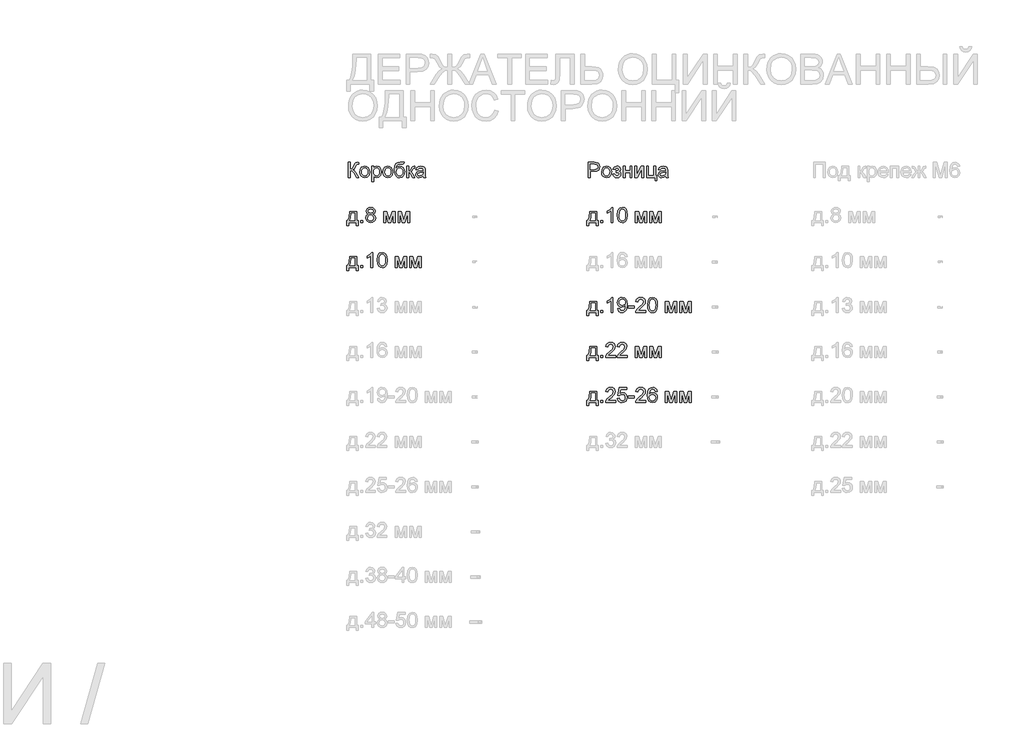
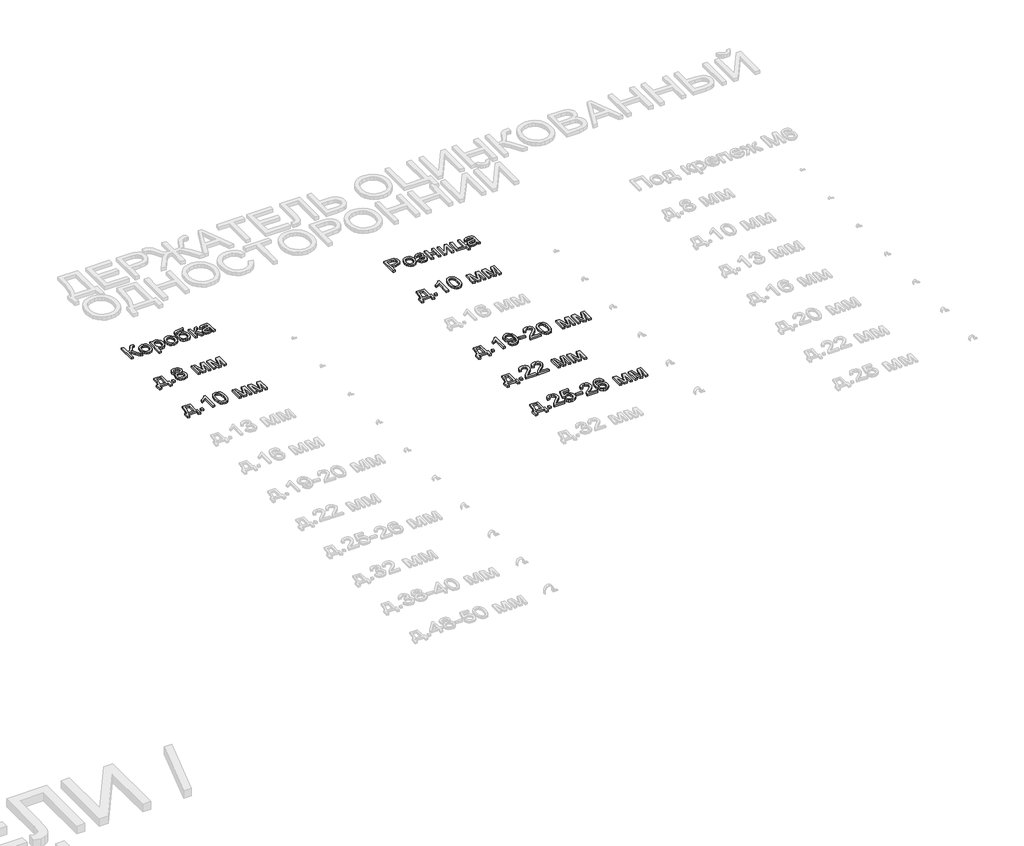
# One storey, part 39 of 98: 8 proxies.
"""IFC4 building model written with IfcOpenShell, lengths in millimetres."""

from ifc_helpers import new_model, si_unit, origin, origin_with_axes, place, context, project, spatial, polyline, outline, extrude, element, save

model = new_model("IFC4")

# Units and contexts
model_context = context("Model", 3, world=origin())
ifc_project = project(units=[si_unit("LENGTHUNIT", "METRE", prefix="MILLI")], contexts=[model_context])

# Site, building, storey
site = spatial("IfcSite", under=ifc_project)
building = spatial("IfcBuilding", under=site)
storey = spatial("IfcBuildingStorey", under=building, Name="Этаж 01", Elevation=0.0)

# Proxies
placement = place(None, origin())
element("IfcBuildingElementProxy", 1, Name="100", ObjectType="100", at=placement, inside=storey, context=model_context, shape_type="SweptSolid", body=[
    extrude(outline(polyline([(-26.9858135, -32485.7395637), (20.1030819, -32485.7395637), (20.1030819, -32546.9551277), (29.520861, -32546.9551277), (29.520861, -32579.9173545), (16.9638222, -32579.9173545), (16.9638222, -32559.5121665), (-34.8339627, -32559.5121665), (-34.8339627, -32579.9173545), (-47.3910015, -32579.9173545), (-47.3910015, -32546.9551277), (-39.5428522, -32546.9551277), (-29.8430303, -32523.0060098), (-26.9858135, -32485.7395637)]), holes=[polyline([(-15.9984045, -32498.2966025), (-18.9414605, -32526.905559), (-25.4161836, -32546.9551277), (7.5460431, -32546.9551277), (7.5460431, -32498.2966025), (-15.9984045, -32498.2966025)])]), origin_with_axes(), (0.0, 0.0, 1.0), 10.0),
    extrude(outline(polyline([(46.7867893, -32559.5121665), (46.7867893, -32546.9551277), (59.3438281, -32546.9551277), (59.3438281, -32559.5121665), (46.7867893, -32559.5121665)])), origin_with_axes(), (0.0, 0.0, 1.0), 10.0),
    extrude(outline(polyline([(98.045014, -32504.1827144), (86.6038839, -32496.3836161), (82.8882758, -32484.2435102), (84.9116267, -32474.4271923), (90.9816796, -32466.3153943), (100.4178528, -32460.8707408), (112.5395646, -32459.0558563), (124.7348527, -32460.9136604), (134.2936532, -32466.4870726), (140.4740707, -32474.7276293), (142.5342099, -32484.5868668), (138.8676527, -32496.4204043), (127.7453537, -32504.1827144), (141.0994701, -32514.0296891), (145.6734696, -32530.2778106), (143.404864, -32542.2830264), (136.5990471, -32552.2035775), (126.0898847, -32558.8622416), (112.7112428, -32561.0817963), (99.3326009, -32558.8530446), (88.8234386, -32552.1667893), (82.0176217, -32542.151202), (79.7490161, -32529.934454), (84.5069565, -32513.3061879), (98.045014, -32504.1827144)]), holes=[polyline([(92.3060548, -32529.4929957), (94.4029822, -32538.9475629), (101.8219358, -32546.02316), (112.8093447, -32548.5247575), (121.3564697, -32547.2095794), (127.7698792, -32543.264045), (133.1164308, -32529.8854031), (127.5982009, -32516.2492438), (121.0376387, -32512.2025419), (112.3924118, -32510.8536412), (103.9648484, -32512.1841478), (97.6158183, -32516.1756674), (92.3060548, -32529.4929957)]), polyline([(95.4453145, -32484.6113922), (99.8966867, -32494.4706297), (112.8583956, -32498.2966025), (125.5625872, -32494.4951552), (129.9771711, -32485.175478), (125.4154344, -32475.524707), (112.7112428, -32471.6128951), (99.9702631, -32475.4388678), (95.4453145, -32484.6113922)])]), origin_with_axes(), (0.0, 0.0, 1.0), 10.0),
    extrude(outline(polyline([(199.0408844, -32485.7395637), (220.6478202, -32485.7395637), (237.3006119, -32544.7968867), (255.2532532, -32485.7395637), (275.9527468, -32485.7395637), (275.9527468, -32559.5121665), (263.3957081, -32559.5121665), (263.3957081, -32500.111487), (245.3449648, -32559.5121665), (228.8638514, -32559.5121665), (211.5979231, -32497.2665329), (211.5979231, -32559.5121665), (199.0408844, -32559.5121665), (199.0408844, -32485.7395637)])), origin_with_axes(), (0.0, 0.0, 1.0), 10.0),
    extrude(outline(polyline([(294.788305, -32485.7395637), (316.3952408, -32485.7395637), (333.0480325, -32544.7968867), (351.0006738, -32485.7395637), (371.7001674, -32485.7395637), (371.7001674, -32559.5121665), (359.1431287, -32559.5121665), (359.1431287, -32500.111487), (341.0923854, -32559.5121665), (324.6112721, -32559.5121665), (307.3453437, -32497.2665329), (307.3453437, -32559.5121665), (294.788305, -32559.5121665), (294.788305, -32485.7395637)])), origin_with_axes(), (0.0, 0.0, 1.0), 10.0),
])
element("IfcBuildingElementProxy", 2, Name="100", ObjectType="100", at=placement, inside=storey, context=model_context, shape_type="SweptSolid", body=[
    extrude(outline(polyline([(-36.4035925, -32159.0558563), (-23.8465538, -32159.0558563), (-23.8465538, -32203.005492), (-9.8057243, -32199.6822913), (-0.0078005, -32182.8700841), (6.9206438, -32168.8292546), (14.768793, -32161.8762849), (25.9891938, -32159.0558563), (34.2297505, -32159.2030091), (34.2297505, -32171.7600479), (31.4583728, -32171.6864715), (28.6869951, -32171.6128951), (18.8768086, -32174.6295274), (11.4210668, -32187.5544482), (2.5305853, -32203.2997976), (-6.1391671, -32208.4991965), (3.5545235, -32214.1768419), (13.113324, -32226.0103794), (34.2297505, -32259.5121665), (19.6616235, -32259.5121665), (1.807084, -32231.2097783), (-10.7622175, -32216.4331848), (-23.8465538, -32212.4232711), (-23.8465538, -32259.5121665), (-36.4035925, -32259.5121665), (-36.4035925, -32159.0558563)])), origin_with_axes(), (0.0, 0.0, 1.0), 10.0),
    extrude(outline(polyline([(40.5082699, -32222.6258651), (43.2244653, -32204.8387706), (51.3730515, -32192.3369141), (61.4407554, -32186.2116789), (73.4950221, -32184.1699338), (86.6866574, -32186.656203), (97.2234108, -32194.1150104), (104.1303953, -32205.957745), (106.4327234, -32221.5957955), (102.361496, -32243.9384953), (90.5034331, -32256.5813732), (73.4950221, -32261.0817963), (60.1439714, -32258.6047242), (49.6194807, -32251.1735079), (42.7860726, -32239.082453), (40.5082699, -32222.6258651)]), holes=[polyline([(53.0653087, -32222.6013396), (54.5184426, -32233.9658276), (58.8778442, -32242.0622972), (65.4384065, -32246.9091424), (73.4950221, -32248.5247575), (81.5148496, -32246.8999454), (88.0631492, -32242.025509), (92.4225508, -32233.8217405), (93.8756847, -32222.2089321), (92.4133537, -32211.175538), (88.026361, -32203.189433), (81.4688644, -32198.3425877), (73.4950221, -32196.7269726), (65.4384065, -32198.3364563), (58.8778442, -32203.1649075), (54.5184426, -32211.242983), (53.0653087, -32222.6013396)])]), origin_with_axes(), (0.0, 0.0, 1.0), 10.0),
    extrude(outline(polyline([(120.5593921, -32287.7655037), (120.5593921, -32185.7395637), (133.1164308, -32185.7395637), (133.1164308, -32198.0513478), (141.7984459, -32187.6402873), (153.5216188, -32184.1699338), (169.4386465, -32189.0259762), (179.8374442, -32202.7111864), (183.3445859, -32222.0617793), (179.3837231, -32242.4056537), (167.8812794, -32256.2625422), (152.0010399, -32261.0817963), (141.0749447, -32257.8566975), (133.1164308, -32249.7019799), (133.1164308, -32287.7655037), (120.5593921, -32287.7655037)]), holes=[polyline([(133.1164308, -32223.2144763), (134.4745285, -32234.4716653), (138.5488216, -32242.34434), (144.5606266, -32246.9796532), (151.7312598, -32248.5247575), (159.018389, -32246.9244709), (165.1834781, -32242.1236108), (169.3865299, -32233.9627619), (170.7875471, -32222.2825085), (169.4202524, -32211.0866332), (165.3183681, -32203.1035939), (159.3157603, -32198.3211279), (152.2462946, -32196.7269726), (145.1492378, -32198.4222955), (138.9167036, -32203.5082641), (134.566499, -32211.8254628), (133.1164308, -32223.2144763)])]), origin_with_axes(), (0.0, 0.0, 1.0), 10.0),
    extrude(outline(polyline([(194.3319948, -32222.6258651), (197.0481902, -32204.8387706), (205.1967764, -32192.3369141), (215.2644804, -32186.2116789), (227.3187471, -32184.1699338), (240.5103823, -32186.656203), (251.0471358, -32194.1150104), (257.9541202, -32205.957745), (260.2564484, -32221.5957955), (256.185221, -32243.9384953), (244.327158, -32256.5813732), (227.3187471, -32261.0817963), (213.9676963, -32258.6047242), (203.4432056, -32251.1735079), (196.6097975, -32239.082453), (194.3319948, -32222.6258651)]), holes=[polyline([(206.8890336, -32222.6013396), (208.3421675, -32233.9658276), (212.7015691, -32242.0622972), (219.2621314, -32246.9091424), (227.3187471, -32248.5247575), (235.3385746, -32246.8999454), (241.8868741, -32242.025509), (246.2462757, -32233.8217405), (247.6994096, -32222.2089321), (246.2370787, -32211.175538), (241.8500859, -32203.189433), (235.2925893, -32198.3425877), (227.3187471, -32196.7269726), (219.2621314, -32198.3364563), (212.7015691, -32203.1649075), (208.3421675, -32211.242983), (206.8890336, -32222.6013396)])]), origin_with_axes(), (0.0, 0.0, 1.0), 10.0),
    extrude(outline(polyline([(326.1809019, -32157.4862265), (337.1683108, -32157.4862265), (333.9309493, -32167.2841503), (327.5298025, -32170.8280802), (312.1523351, -32171.6128951), (291.4405788, -32174.5069001), (283.4943277, -32183.7775264), (280.8087892, -32200.1850634), (291.6858335, -32188.1675849), (305.7021375, -32184.1699338), (318.7680797, -32186.7113853), (329.3692125, -32194.3357396), (336.3957586, -32206.2949702), (338.7379407, -32221.8410502), (334.0903648, -32243.447986), (323.0661677, -32256.4832714), (305.7021375, -32261.0817963), (294.3683064, -32259.6010713), (285.873298, -32255.1588962), (275.0207791, -32240.002158), (271.2438573, -32207.8370089), (273.6258932, -32183.7438039), (280.772001, -32169.0499838), (292.8599902, -32161.5543882), (310.0676705, -32159.0558563), (324.0471863, -32158.7738134), (326.1809019, -32157.4862265)]), holes=[polyline([(326.1809019, -32221.4486427), (324.8197385, -32211.5679454), (320.7362484, -32203.6554169), (314.1756861, -32198.4590837), (305.3833064, -32196.7269726), (296.2169134, -32198.5571855), (289.4172278, -32204.0478243), (285.204979, -32212.598015), (283.8008961, -32223.6068837), (285.3521318, -32234.2785273), (290.005839, -32242.1113481), (296.9342833, -32246.9214052), (305.30973, -32248.5247575), (313.7280964, -32246.6700191), (320.3928918, -32241.105804), (324.7338994, -32232.4820369), (326.1809019, -32221.4486427)])]), origin_with_axes(), (0.0, 0.0, 1.0), 10.0),
    extrude(outline(polyline([(354.4342391, -32185.7395637), (366.9912779, -32185.7395637), (366.9912779, -32217.1321606), (375.4035129, -32214.8758177), (382.2951689, -32201.7301677), (388.0218653, -32190.3871396), (393.0741114, -32186.6960569), (402.2588985, -32185.7395637), (404.6623942, -32185.7395637), (404.6623942, -32198.3701789), (401.2778798, -32198.2966025), (395.1465133, -32199.6209776), (390.8300312, -32207.8860598), (385.7655224, -32216.8255923), (378.6653999, -32221.203388), (386.5871255, -32226.0900872), (394.3616983, -32236.3846517), (407.8016539, -32259.5121665), (393.5278325, -32259.5121665), (380.3576571, -32236.875161), (373.7357811, -32227.2979664), (366.9912779, -32224.9803098), (366.9912779, -32259.5121665), (354.4342391, -32259.5121665), (354.4342391, -32185.7395637)])), origin_with_axes(), (0.0, 0.0, 1.0), 10.0),
    extrude(outline(polyline([(462.7386985, -32250.0943874), (450.5618045, -32258.6047242), (437.1095862, -32261.0817963), (426.6157523, -32259.5918742), (418.874902, -32255.122108), (414.1016331, -32248.3346852), (412.5105434, -32239.8917934), (414.9140391, -32229.9589795), (421.2293467, -32222.7484924), (430.0217264, -32218.6282141), (440.886508, -32216.7397532), (462.6651221, -32212.4232711), (462.7386985, -32209.6273679), (459.2806078, -32200.3567416), (445.3991938, -32196.7269726), (432.6950022, -32199.142731), (426.637212, -32207.7143815), (414.0801733, -32206.1447517), (419.5125641, -32193.8820185), (430.4509221, -32186.6960569), (447.0178746, -32184.1699338), (462.2359264, -32186.4017513), (470.8321024, -32192.0058203), (474.6826006, -32200.5284199), (475.2957373, -32211.5158288), (475.2957373, -32227.1385509), (475.9333994, -32248.9539532), (478.434997, -32259.5121665), (465.8779582, -32259.5121665), (462.7386985, -32250.0943874)]), holes=[polyline([(462.7386985, -32224.9803098), (442.4806633, -32228.8308081), (431.6771954, -32230.8664218), (426.7843648, -32234.1773597), (425.0675822, -32239.0088766), (428.8077158, -32245.8024308), (439.782862, -32248.5247575), (452.4870536, -32245.5203879), (460.6785593, -32238.2485871), (462.6651221, -32228.5365025), (462.7386985, -32224.9803098)])]), origin_with_axes(), (0.0, 0.0, 1.0), 10.0),
])
element("IfcBuildingElementProxy", 3, Name="100", ObjectType="100", at=placement, inside=storey, context=model_context, shape_type="SweptSolid", body=[
    extrude(outline(polyline([(-26.9858135, -32785.7395637), (20.1030819, -32785.7395637), (20.1030819, -32846.9551277), (29.520861, -32846.9551277), (29.520861, -32879.9173545), (16.9638222, -32879.9173545), (16.9638222, -32859.5121665), (-34.8339627, -32859.5121665), (-34.8339627, -32879.9173545), (-47.3910015, -32879.9173545), (-47.3910015, -32846.9551277), (-39.5428522, -32846.9551277), (-29.8430303, -32823.0060098), (-26.9858135, -32785.7395637)]), holes=[polyline([(-15.9984045, -32798.2966025), (-18.9414605, -32826.905559), (-25.4161836, -32846.9551277), (7.5460431, -32846.9551277), (7.5460431, -32798.2966025), (-15.9984045, -32798.2966025)])]), origin_with_axes(), (0.0, 0.0, 1.0), 10.0),
    extrude(outline(polyline([(46.7867893, -32859.5121665), (46.7867893, -32846.9551277), (59.3438281, -32846.9551277), (59.3438281, -32859.5121665), (46.7867893, -32859.5121665)])), origin_with_axes(), (0.0, 0.0, 1.0), 10.0),
    extrude(outline(polyline([(126.8379114, -32859.5121665), (114.2808727, -32859.5121665), (114.2808727, -32781.2268779), (102.3860215, -32789.7004265), (89.1667951, -32796.0402596), (89.1667951, -32784.1699338), (107.5731576, -32772.4222355), (118.7445076, -32759.0558563), (126.8379114, -32759.0558563), (126.8379114, -32859.5121665)])), origin_with_axes(), (0.0, 0.0, 1.0), 10.0),
    extrude(outline(polyline([(156.6608785, -32810.0933518), (160.3519612, -32781.1900897), (171.3148447, -32764.5250353), (189.6231053, -32759.0558563), (204.2893342, -32762.2932179), (214.4183518, -32771.6251578), (220.3044637, -32786.4875904), (222.5853321, -32810.0933518), (218.9310376, -32838.8739865), (208.0049423, -32855.5758291), (199.7735827, -32859.7053045), (189.6231053, -32861.0817963), (176.5755572, -32858.6905633), (166.6672688, -32851.5168644), (159.1624761, -32834.5268476), (156.6608785, -32810.0933518)]), holes=[polyline([(169.2179173, -32810.0688263), (170.6894453, -32829.8210238), (175.1040292, -32841.2529568), (181.6768542, -32846.7068073), (189.6231053, -32848.5247575), (197.5693564, -32846.700676), (204.1421814, -32841.2284313), (208.5567653, -32829.7903669), (210.0282933, -32810.0688263), (208.6058162, -32790.7611529), (204.3383851, -32779.2403151), (197.7778228, -32773.5197501), (189.4759525, -32771.6128951), (181.6155405, -32773.2928895), (175.3002329, -32778.3328729), (170.7384962, -32790.5710806), (169.2179173, -32810.0688263)])]), origin_with_axes(), (0.0, 0.0, 1.0), 10.0),
    extrude(outline(polyline([(275.9527468, -32785.7395637), (297.5596827, -32785.7395637), (314.2124743, -32844.7968867), (332.1651157, -32785.7395637), (352.8646093, -32785.7395637), (352.8646093, -32859.5121665), (340.3075705, -32859.5121665), (340.3075705, -32800.111487), (322.2568273, -32859.5121665), (305.7757139, -32859.5121665), (288.5097856, -32797.2665329), (288.5097856, -32859.5121665), (275.9527468, -32859.5121665), (275.9527468, -32785.7395637)])), origin_with_axes(), (0.0, 0.0, 1.0), 10.0),
    extrude(outline(polyline([(371.7001674, -32785.7395637), (393.3071033, -32785.7395637), (409.9598949, -32844.7968867), (427.9125363, -32785.7395637), (448.6120299, -32785.7395637), (448.6120299, -32859.5121665), (436.0549911, -32859.5121665), (436.0549911, -32800.111487), (418.0042479, -32859.5121665), (401.5231345, -32859.5121665), (384.2572062, -32797.2665329), (384.2572062, -32859.5121665), (371.7001674, -32859.5121665), (371.7001674, -32785.7395637)])), origin_with_axes(), (0.0, 0.0, 1.0), 10.0),
])
element("IfcBuildingElementProxy", 4, Name="100", ObjectType="100", at=placement, inside=storey, context=model_context, shape_type="SweptSolid", body=[
    extrude(outline(polyline([(1563.5964075, -32259.5121665), (1563.5964075, -32159.0558563), (1600.8260654, -32159.0558563), (1615.8356508, -32160.0123495), (1628.0370703, -32164.7089763), (1635.9465332, -32174.421061), (1638.9386401, -32188.1185339), (1636.9183548, -32199.9582028), (1630.8574989, -32209.8235716), (1619.5236678, -32216.4822358), (1601.6844567, -32218.7017905), (1576.1534462, -32218.7017905), (1576.1534462, -32259.5121665), (1563.5964075, -32259.5121665)]), holes=[polyline([(1576.1534462, -32206.1447517), (1602.4202207, -32206.1447517), (1620.9124223, -32201.533964), (1625.0143065, -32195.9850773), (1626.3816013, -32188.5599923), (1623.1565025, -32178.1611946), (1614.6829538, -32172.4712864), (1602.1259151, -32171.6128951), (1576.1534462, -32171.6128951), (1576.1534462, -32206.1447517)])]), origin_with_axes(), (0.0, 0.0, 1.0), 10.0),
    extrude(outline(polyline([(1651.4956788, -32222.6258651), (1654.2118742, -32204.8387706), (1662.3604604, -32192.3369141), (1672.4281644, -32186.2116789), (1684.4824311, -32184.1699338), (1697.6740663, -32186.656203), (1708.2108198, -32194.1150104), (1715.1178042, -32205.957745), (1717.4201324, -32221.5957955), (1713.348905, -32243.9384953), (1701.490842, -32256.5813732), (1684.4824311, -32261.0817963), (1671.1313803, -32258.6047242), (1660.6068896, -32251.1735079), (1653.7734815, -32239.082453), (1651.4956788, -32222.6258651)]), holes=[polyline([(1664.0527176, -32222.6013396), (1665.5058515, -32233.9658276), (1669.8652531, -32242.0622972), (1676.4258154, -32246.9091424), (1684.4824311, -32248.5247575), (1692.5022586, -32246.8999454), (1699.0505581, -32242.025509), (1703.4099597, -32233.8217405), (1704.8630936, -32222.2089321), (1703.4007627, -32211.175538), (1699.0137699, -32203.189433), (1692.4562733, -32198.3425877), (1684.4824311, -32196.7269726), (1676.4258154, -32198.3364563), (1669.8652531, -32203.1649075), (1665.5058515, -32211.242983), (1664.0527176, -32222.6013396)])]), origin_with_axes(), (0.0, 0.0, 1.0), 10.0),
    extrude(outline(polyline([(1748.8127293, -32226.5499397), (1748.8127293, -32213.9929009), (1758.7210177, -32213.5023916), (1763.7242128, -32210.8904294), (1766.0786576, -32205.4335132), (1762.9271352, -32199.0936801), (1754.7969431, -32196.7269726), (1746.3969709, -32199.0814174), (1740.9645801, -32206.1447517), (1726.8379114, -32204.5751218), (1736.280216, -32189.2712308), (1753.5216188, -32184.1699338), (1764.0185184, -32185.7242353), (1771.9647695, -32190.3871396), (1776.9679647, -32197.2082849), (1778.6356964, -32205.2373094), (1776.2628575, -32213.0364077), (1769.1443409, -32219.0696725), (1777.4462112, -32226.8932962), (1780.2053262, -32238.1504853), (1778.4548211, -32247.3935204), (1773.2033056, -32254.7174378), (1764.806399, -32259.4907067), (1753.6197207, -32261.0817963), (1742.678297, -32259.6102683), (1734.3059159, -32255.1956844), (1728.5025775, -32247.8380445), (1725.2682816, -32237.5373486), (1739.3949502, -32235.9677188), (1745.0603329, -32245.238345), (1754.8214685, -32248.5247575), (1763.993993, -32245.3732351), (1767.6482874, -32237.3166194), (1765.3796818, -32230.719269), (1760.5481649, -32227.1876018), (1751.2652759, -32226.4763633), (1748.8127293, -32226.5499397)])), origin_with_axes(), (0.0, 0.0, 1.0), 10.0),
    extrude(outline(polyline([(1795.9016247, -32185.7395637), (1808.4586634, -32185.7395637), (1808.4586634, -32213.9929009), (1841.4208902, -32213.9929009), (1841.4208902, -32185.7395637), (1853.977929, -32185.7395637), (1853.977929, -32259.5121665), (1841.4208902, -32259.5121665), (1841.4208902, -32226.5499397), (1808.4586634, -32226.5499397), (1808.4586634, -32259.5121665), (1795.9016247, -32259.5121665), (1795.9016247, -32185.7395637)])), origin_with_axes(), (0.0, 0.0, 1.0), 10.0),
    extrude(outline(polyline([(1872.8134871, -32185.7395637), (1885.3705259, -32185.7395637), (1885.3705259, -32242.0009835), (1916.2235626, -32185.7395637), (1932.4594213, -32185.7395637), (1932.4594213, -32259.5121665), (1919.9023825, -32259.5121665), (1919.9023825, -32203.5941032), (1889.2455496, -32259.5121665), (1872.8134871, -32259.5121665), (1872.8134871, -32185.7395637)])), origin_with_axes(), (0.0, 0.0, 1.0), 10.0),
    extrude(outline(polyline([(1951.2949794, -32185.7395637), (1963.8520182, -32185.7395637), (1963.8520182, -32246.9551277), (1999.9535047, -32246.9551277), (1999.9535047, -32185.7395637), (2012.5105434, -32185.7395637), (2012.5105434, -32246.9551277), (2020.3586927, -32246.9551277), (2020.3586927, -32279.9173545), (2007.8016539, -32279.9173545), (2007.8016539, -32259.5121665), (1951.2949794, -32259.5121665), (1951.2949794, -32185.7395637)])), origin_with_axes(), (0.0, 0.0, 1.0), 10.0),
    extrude(outline(polyline([(2078.434997, -32250.0943874), (2066.2581029, -32258.6047242), (2052.8058846, -32261.0817963), (2042.3120507, -32259.5918742), (2034.5712004, -32255.122108), (2029.7979315, -32248.3346852), (2028.2068419, -32239.8917934), (2030.6103376, -32229.9589795), (2036.9256452, -32222.7484924), (2045.7180249, -32218.6282141), (2056.5828065, -32216.7397532), (2078.3614206, -32212.4232711), (2078.434997, -32209.6273679), (2074.9769062, -32200.3567416), (2061.0954923, -32196.7269726), (2048.3913007, -32199.142731), (2042.3335105, -32207.7143815), (2029.7764717, -32206.1447517), (2035.2088625, -32193.8820185), (2046.1472205, -32186.6960569), (2062.714173, -32184.1699338), (2077.9322249, -32186.4017513), (2086.5284009, -32192.0058203), (2090.3788991, -32200.5284199), (2090.9920357, -32211.5158288), (2090.9920357, -32227.1385509), (2091.6296979, -32248.9539532), (2094.1312954, -32259.5121665), (2081.5742567, -32259.5121665), (2078.434997, -32250.0943874)]), holes=[polyline([(2078.434997, -32224.9803098), (2058.1769618, -32228.8308081), (2047.3734938, -32230.8664218), (2042.4806633, -32234.1773597), (2040.7638807, -32239.0088766), (2044.5040143, -32245.8024308), (2055.4791605, -32248.5247575), (2068.183352, -32245.5203879), (2076.3748578, -32238.2485871), (2078.3614206, -32228.5365025), (2078.434997, -32224.9803098)])]), origin_with_axes(), (0.0, 0.0, 1.0), 10.0),
])
element("IfcBuildingElementProxy", 5, Name="100", ObjectType="100", at=placement, inside=storey, context=model_context, shape_type="SweptSolid", body=[
    extrude(outline(polyline([(1573.0141865, -32485.7395637), (1620.1030819, -32485.7395637), (1620.1030819, -32546.9551277), (1629.520861, -32546.9551277), (1629.520861, -32579.9173545), (1616.9638222, -32579.9173545), (1616.9638222, -32559.5121665), (1565.1660373, -32559.5121665), (1565.1660373, -32579.9173545), (1552.6089985, -32579.9173545), (1552.6089985, -32546.9551277), (1560.4571478, -32546.9551277), (1570.1569697, -32523.0060098), (1573.0141865, -32485.7395637)]), holes=[polyline([(1584.0015955, -32498.2966025), (1581.0585395, -32526.905559), (1574.5838164, -32546.9551277), (1607.5460431, -32546.9551277), (1607.5460431, -32498.2966025), (1584.0015955, -32498.2966025)])]), origin_with_axes(), (0.0, 0.0, 1.0), 10.0),
    extrude(outline(polyline([(1646.7867893, -32559.5121665), (1646.7867893, -32546.9551277), (1659.3438281, -32546.9551277), (1659.3438281, -32559.5121665), (1646.7867893, -32559.5121665)])), origin_with_axes(), (0.0, 0.0, 1.0), 10.0),
    extrude(outline(polyline([(1726.8379114, -32559.5121665), (1714.2808727, -32559.5121665), (1714.2808727, -32481.2268779), (1702.3860215, -32489.7004265), (1689.1667951, -32496.0402596), (1689.1667951, -32484.1699338), (1707.5731576, -32472.4222355), (1718.7445076, -32459.0558563), (1726.8379114, -32459.0558563), (1726.8379114, -32559.5121665)])), origin_with_axes(), (0.0, 0.0, 1.0), 10.0),
    extrude(outline(polyline([(1756.6608785, -32510.0933518), (1760.3519612, -32481.1900897), (1771.3148447, -32464.5250353), (1789.6231053, -32459.0558563), (1804.2893342, -32462.2932179), (1814.4183518, -32471.6251578), (1820.3044637, -32486.4875904), (1822.5853321, -32510.0933518), (1818.9310376, -32538.8739865), (1808.0049423, -32555.5758291), (1799.7735827, -32559.7053045), (1789.6231053, -32561.0817963), (1776.5755572, -32558.6905633), (1766.6672688, -32551.5168644), (1759.1624761, -32534.5268476), (1756.6608785, -32510.0933518)]), holes=[polyline([(1769.2179173, -32510.0688263), (1770.6894453, -32529.8210238), (1775.1040292, -32541.2529568), (1781.6768542, -32546.7068073), (1789.6231053, -32548.5247575), (1797.5693564, -32546.700676), (1804.1421814, -32541.2284313), (1808.5567653, -32529.7903669), (1810.0282933, -32510.0688263), (1808.6058162, -32490.7611529), (1804.3383851, -32479.2403151), (1797.7778228, -32473.5197501), (1789.4759525, -32471.6128951), (1781.6155405, -32473.2928895), (1775.3002329, -32478.3328729), (1770.7384962, -32490.5710806), (1769.2179173, -32510.0688263)])]), origin_with_axes(), (0.0, 0.0, 1.0), 10.0),
    extrude(outline(polyline([(1875.9527468, -32485.7395637), (1897.5596827, -32485.7395637), (1914.2124743, -32544.7968867), (1932.1651157, -32485.7395637), (1952.8646093, -32485.7395637), (1952.8646093, -32559.5121665), (1940.3075705, -32559.5121665), (1940.3075705, -32500.111487), (1922.2568273, -32559.5121665), (1905.7757139, -32559.5121665), (1888.5097856, -32497.2665329), (1888.5097856, -32559.5121665), (1875.9527468, -32559.5121665), (1875.9527468, -32485.7395637)])), origin_with_axes(), (0.0, 0.0, 1.0), 10.0),
    extrude(outline(polyline([(1971.7001674, -32485.7395637), (1993.3071033, -32485.7395637), (2009.9598949, -32544.7968867), (2027.9125363, -32485.7395637), (2048.6120299, -32485.7395637), (2048.6120299, -32559.5121665), (2036.0549911, -32559.5121665), (2036.0549911, -32500.111487), (2018.0042479, -32559.5121665), (2001.5231345, -32559.5121665), (1984.2572062, -32497.2665329), (1984.2572062, -32559.5121665), (1971.7001674, -32559.5121665), (1971.7001674, -32485.7395637)])), origin_with_axes(), (0.0, 0.0, 1.0), 10.0),
])
element("IfcBuildingElementProxy", 6, Name="100", ObjectType="100", at=placement, inside=storey, context=model_context, shape_type="SweptSolid", body=[
    extrude(outline(polyline([(1573.0141865, -33085.7395637), (1620.1030819, -33085.7395637), (1620.1030819, -33146.9551277), (1629.520861, -33146.9551277), (1629.520861, -33179.9173545), (1616.9638222, -33179.9173545), (1616.9638222, -33159.5121665), (1565.1660373, -33159.5121665), (1565.1660373, -33179.9173545), (1552.6089985, -33179.9173545), (1552.6089985, -33146.9551277), (1560.4571478, -33146.9551277), (1570.1569697, -33123.0060098), (1573.0141865, -33085.7395637)]), holes=[polyline([(1584.0015955, -33098.2966025), (1581.0585395, -33126.905559), (1574.5838164, -33146.9551277), (1607.5460431, -33146.9551277), (1607.5460431, -33098.2966025), (1584.0015955, -33098.2966025)])]), origin_with_axes(), (0.0, 0.0, 1.0), 10.0),
    extrude(outline(polyline([(1646.7867893, -33159.5121665), (1646.7867893, -33146.9551277), (1659.3438281, -33146.9551277), (1659.3438281, -33159.5121665), (1646.7867893, -33159.5121665)])), origin_with_axes(), (0.0, 0.0, 1.0), 10.0),
    extrude(outline(polyline([(1726.8379114, -33159.5121665), (1714.2808727, -33159.5121665), (1714.2808727, -33081.2268779), (1702.3860215, -33089.7004265), (1689.1667951, -33096.0402596), (1689.1667951, -33084.1699338), (1707.5731576, -33072.4222355), (1718.7445076, -33059.0558563), (1726.8379114, -33059.0558563), (1726.8379114, -33159.5121665)])), origin_with_axes(), (0.0, 0.0, 1.0), 10.0),
    extrude(outline(polyline([(1758.2305084, -33134.3980889), (1770.7875471, -33132.8284591), (1776.4284044, -33144.8091494), (1787.1215077, -33148.5247575), (1797.2873135, -33146.1335246), (1804.1789696, -33139.7446406), (1808.2869852, -33128.8308081), (1810.1018697, -33114.2626811), (1810.0282933, -33111.8101344), (1799.9851148, -33121.3260154), (1786.2140655, -33124.9803098), (1774.7637384, -33122.7484924), (1765.232529, -33116.0530401), (1758.8037911, -33105.7094247), (1756.6608785, -33092.5331179), (1758.9080244, -33078.921484), (1765.6494619, -33068.2529062), (1775.7754139, -33061.3551188), (1788.1761028, -33059.0558563), (1806.0674305, -33064.3043061), (1818.3792146, -33079.2648406), (1822.5853321, -33107.371025), (1818.3914773, -33137.8684424), (1813.17675, -33147.8595043), (1805.9202777, -33155.1466334), (1796.9347599, -33159.5980056), (1786.5328965, -33161.0817963), (1775.7968736, -33159.3312911), (1767.2313545, -33154.0797757), (1761.2410094, -33145.6583437), (1758.2305084, -33134.3980889)]), holes=[polyline([(1810.0282933, -33092.2388123), (1808.6732613, -33083.7284755), (1804.6081652, -33077.1801759), (1798.298989, -33073.0047153), (1790.2117165, -33071.6128951), (1781.824007, -33073.1120142), (1775.1040292, -33077.6093716), (1770.6894453, -33084.4918306), (1769.2179173, -33093.1462545), (1770.6097375, -33100.9054989), (1774.7851982, -33107.0644567), (1781.339629, -33111.0835675), (1789.86836, -33112.4232711), (1804.3506478, -33107.0644567), (1808.6088819, -33100.6786384), (1810.0282933, -33092.2388123)])]), origin_with_axes(), (0.0, 0.0, 1.0), 10.0),
    extrude(outline(polyline([(1830.4334813, -33129.6891994), (1830.4334813, -33117.1321606), (1869.6742274, -33117.1321606), (1869.6742274, -33129.6891994), (1830.4334813, -33129.6891994)])), origin_with_axes(), (0.0, 0.0, 1.0), 10.0),
    extrude(outline(polyline([(1945.0164601, -33146.9551277), (1945.0164601, -33159.5121665), (1879.0920065, -33159.5121665), (1880.4409072, -33150.8546768), (1888.0683272, -33137.5250859), (1903.7891511, -33122.9692216), (1925.4696634, -33102.0489988), (1930.8897914, -33087.8242283), (1925.7762317, -33076.3095219), (1912.4221153, -33071.6128951), (1898.5039131, -33076.1991573), (1893.2186751, -33088.8788234), (1880.6616364, -33087.3091935), (1883.7058599, -33075.1629563), (1890.2878819, -33066.2908689), (1900.0643459, -33060.8646095), (1912.6918954, -33059.0558563), (1925.4114154, -33061.0669445), (1935.1694853, -33067.1002093), (1941.377494, -33076.1133182), (1943.4468302, -33087.0639389), (1941.2150128, -33098.9710528), (1933.7960592, -33111.2828369), (1915.8066296, -33128.4874515), (1901.36113, -33140.5662437), (1895.6957472, -33146.9551277), (1945.0164601, -33146.9551277)])), origin_with_axes(), (0.0, 0.0, 1.0), 10.0),
    extrude(outline(polyline([(1957.5734988, -33110.0933518), (1961.2645815, -33081.1900897), (1972.227465, -33064.5250353), (1990.5357256, -33059.0558563), (2005.2019545, -33062.2932179), (2015.3309721, -33071.6251578), (2021.217084, -33086.4875904), (2023.4979524, -33110.0933518), (2019.8436579, -33138.8739865), (2008.9175626, -33155.5758291), (2000.686203, -33159.7053045), (1990.5357256, -33161.0817963), (1977.4881775, -33158.6905633), (1967.5798891, -33151.5168644), (1960.0750964, -33134.5268476), (1957.5734988, -33110.0933518)]), holes=[polyline([(1970.1305376, -33110.0688263), (1971.6020656, -33129.8210238), (1976.0166495, -33141.2529568), (1982.5894745, -33146.7068073), (1990.5357256, -33148.5247575), (1998.4819767, -33146.700676), (2005.0548017, -33141.2284313), (2009.4693856, -33129.7903669), (2010.9409136, -33110.0688263), (2009.5184365, -33090.7611529), (2005.2510054, -33079.2403151), (1998.6904431, -33073.5197501), (1990.3885728, -33071.6128951), (1982.5281608, -33073.2928895), (1976.2128532, -33078.3328729), (1971.6511165, -33090.5710806), (1970.1305376, -33110.0688263)])]), origin_with_axes(), (0.0, 0.0, 1.0), 10.0),
    extrude(outline(polyline([(2076.8653671, -33085.7395637), (2098.472303, -33085.7395637), (2115.1250946, -33144.7968867), (2133.077736, -33085.7395637), (2153.7772296, -33085.7395637), (2153.7772296, -33159.5121665), (2141.2201908, -33159.5121665), (2141.2201908, -33100.111487), (2123.1694476, -33159.5121665), (2106.6883342, -33159.5121665), (2089.4224059, -33097.2665329), (2089.4224059, -33159.5121665), (2076.8653671, -33159.5121665), (2076.8653671, -33085.7395637)])), origin_with_axes(), (0.0, 0.0, 1.0), 10.0),
    extrude(outline(polyline([(2172.6127877, -33085.7395637), (2194.2197236, -33085.7395637), (2210.8725152, -33144.7968867), (2228.8251566, -33085.7395637), (2249.5246502, -33085.7395637), (2249.5246502, -33159.5121665), (2236.9676114, -33159.5121665), (2236.9676114, -33100.111487), (2218.9168682, -33159.5121665), (2202.4357548, -33159.5121665), (2185.1698265, -33097.2665329), (2185.1698265, -33159.5121665), (2172.6127877, -33159.5121665), (2172.6127877, -33085.7395637)])), origin_with_axes(), (0.0, 0.0, 1.0), 10.0),
])
element("IfcBuildingElementProxy", 7, Name="100", ObjectType="100", at=placement, inside=storey, context=model_context, shape_type="SweptSolid", body=[
    extrude(outline(polyline([(1573.0141865, -33385.7395637), (1620.1030819, -33385.7395637), (1620.1030819, -33446.9551277), (1629.520861, -33446.9551277), (1629.520861, -33479.9173545), (1616.9638222, -33479.9173545), (1616.9638222, -33459.5121665), (1565.1660373, -33459.5121665), (1565.1660373, -33479.9173545), (1552.6089985, -33479.9173545), (1552.6089985, -33446.9551277), (1560.4571478, -33446.9551277), (1570.1569697, -33423.0060098), (1573.0141865, -33385.7395637)]), holes=[polyline([(1584.0015955, -33398.2966025), (1581.0585395, -33426.905559), (1574.5838164, -33446.9551277), (1607.5460431, -33446.9551277), (1607.5460431, -33398.2966025), (1584.0015955, -33398.2966025)])]), origin_with_axes(), (0.0, 0.0, 1.0), 10.0),
    extrude(outline(polyline([(1646.7867893, -33459.5121665), (1646.7867893, -33446.9551277), (1659.3438281, -33446.9551277), (1659.3438281, -33459.5121665), (1646.7867893, -33459.5121665)])), origin_with_axes(), (0.0, 0.0, 1.0), 10.0),
    extrude(outline(polyline([(1744.1038398, -33446.9551277), (1744.1038398, -33459.5121665), (1678.1793862, -33459.5121665), (1679.5282869, -33450.8546768), (1687.1557069, -33437.5250859), (1702.8765308, -33422.9692216), (1724.5570431, -33402.0489988), (1729.9771711, -33387.8242283), (1724.8636114, -33376.3095219), (1711.509495, -33371.6128951), (1697.5912928, -33376.1991573), (1692.3060548, -33388.8788234), (1679.7490161, -33387.3091935), (1682.7932396, -33375.1629563), (1689.3752616, -33366.2908689), (1699.1517256, -33360.8646095), (1711.7792751, -33359.0558563), (1724.4987951, -33361.0669445), (1734.256865, -33367.1002093), (1740.4648737, -33376.1133182), (1742.5342099, -33387.0639389), (1740.3023925, -33398.9710528), (1732.8834389, -33411.2828369), (1714.8940093, -33428.4874515), (1700.4485097, -33440.5662437), (1694.7831269, -33446.9551277), (1744.1038398, -33446.9551277)])), origin_with_axes(), (0.0, 0.0, 1.0), 10.0),
    extrude(outline(polyline([(1821.0157022, -33446.9551277), (1821.0157022, -33459.5121665), (1755.0912487, -33459.5121665), (1756.4401493, -33450.8546768), (1764.0675694, -33437.5250859), (1779.7883933, -33422.9692216), (1801.4689055, -33402.0489988), (1806.8890336, -33387.8242283), (1801.7754739, -33376.3095219), (1788.4213574, -33371.6128951), (1774.5031553, -33376.1991573), (1769.2179173, -33388.8788234), (1756.6608785, -33387.3091935), (1759.705102, -33375.1629563), (1766.2871241, -33366.2908689), (1776.0635881, -33360.8646095), (1788.6911376, -33359.0558563), (1801.4106576, -33361.0669445), (1811.1687275, -33367.1002093), (1817.3767361, -33376.1133182), (1819.4460724, -33387.0639389), (1817.2142549, -33398.9710528), (1809.7953014, -33411.2828369), (1791.8058718, -33428.4874515), (1777.3603721, -33440.5662437), (1771.6949894, -33446.9551277), (1821.0157022, -33446.9551277)])), origin_with_axes(), (0.0, 0.0, 1.0), 10.0),
    extrude(outline(polyline([(1875.9527468, -33385.7395637), (1897.5596827, -33385.7395637), (1914.2124743, -33444.7968867), (1932.1651157, -33385.7395637), (1952.8646093, -33385.7395637), (1952.8646093, -33459.5121665), (1940.3075705, -33459.5121665), (1940.3075705, -33400.111487), (1922.2568273, -33459.5121665), (1905.7757139, -33459.5121665), (1888.5097856, -33397.2665329), (1888.5097856, -33459.5121665), (1875.9527468, -33459.5121665), (1875.9527468, -33385.7395637)])), origin_with_axes(), (0.0, 0.0, 1.0), 10.0),
    extrude(outline(polyline([(1971.7001674, -33385.7395637), (1993.3071033, -33385.7395637), (2009.9598949, -33444.7968867), (2027.9125363, -33385.7395637), (2048.6120299, -33385.7395637), (2048.6120299, -33459.5121665), (2036.0549911, -33459.5121665), (2036.0549911, -33400.111487), (2018.0042479, -33459.5121665), (2001.5231345, -33459.5121665), (1984.2572062, -33397.2665329), (1984.2572062, -33459.5121665), (1971.7001674, -33459.5121665), (1971.7001674, -33385.7395637)])), origin_with_axes(), (0.0, 0.0, 1.0), 10.0),
])
element("IfcBuildingElementProxy", 8, Name="100", ObjectType="100", at=placement, inside=storey, context=model_context, shape_type="SweptSolid", body=[
    extrude(outline(polyline([(1573.0141865, -33685.7395637), (1620.1030819, -33685.7395637), (1620.1030819, -33746.9551277), (1629.520861, -33746.9551277), (1629.520861, -33779.9173545), (1616.9638222, -33779.9173545), (1616.9638222, -33759.5121665), (1565.1660373, -33759.5121665), (1565.1660373, -33779.9173545), (1552.6089985, -33779.9173545), (1552.6089985, -33746.9551277), (1560.4571478, -33746.9551277), (1570.1569697, -33723.0060098), (1573.0141865, -33685.7395637)]), holes=[polyline([(1584.0015955, -33698.2966025), (1581.0585395, -33726.905559), (1574.5838164, -33746.9551277), (1607.5460431, -33746.9551277), (1607.5460431, -33698.2966025), (1584.0015955, -33698.2966025)])]), origin_with_axes(), (0.0, 0.0, 1.0), 10.0),
    extrude(outline(polyline([(1646.7867893, -33759.5121665), (1646.7867893, -33746.9551277), (1659.3438281, -33746.9551277), (1659.3438281, -33759.5121665), (1646.7867893, -33759.5121665)])), origin_with_axes(), (0.0, 0.0, 1.0), 10.0),
    extrude(outline(polyline([(1744.1038398, -33746.9551277), (1744.1038398, -33759.5121665), (1678.1793862, -33759.5121665), (1679.5282869, -33750.8546768), (1687.1557069, -33737.5250859), (1702.8765308, -33722.9692216), (1724.5570431, -33702.0489988), (1729.9771711, -33687.8242283), (1724.8636114, -33676.3095219), (1711.509495, -33671.6128951), (1697.5912928, -33676.1991573), (1692.3060548, -33688.8788234), (1679.7490161, -33687.3091935), (1682.7932396, -33675.1629563), (1689.3752616, -33666.2908689), (1699.1517256, -33660.8646095), (1711.7792751, -33659.0558563), (1724.4987951, -33661.0669445), (1734.256865, -33667.1002093), (1740.4648737, -33676.1133182), (1742.5342099, -33687.0639389), (1740.3023925, -33698.9710528), (1732.8834389, -33711.2828369), (1714.8940093, -33728.4874515), (1700.4485097, -33740.5662437), (1694.7831269, -33746.9551277), (1744.1038398, -33746.9551277)])), origin_with_axes(), (0.0, 0.0, 1.0), 10.0),
    extrude(outline(polyline([(1756.6608785, -33732.8284591), (1769.2179173, -33731.2588292), (1775.5454876, -33744.1960127), (1788.6666121, -33748.5247575), (1797.6674583, -33747.019507), (1804.4119615, -33742.5037555), (1808.6242103, -33735.4986692), (1810.0282933, -33726.5254142), (1804.7675808, -33711.6139307), (1798.1610333, -33707.5120464), (1788.8628158, -33706.1447517), (1777.8386187, -33708.3275182), (1770.7875471, -33713.9929009), (1758.2305084, -33712.4232711), (1769.2179173, -33660.6254862), (1817.8764425, -33660.6254862), (1817.8764425, -33673.1825249), (1779.3714604, -33673.1825249), (1774.0003832, -33700.847251), (1782.9705725, -33695.4025974), (1792.3699575, -33693.5877129), (1804.1023275, -33695.8379245), (1813.8420033, -33702.5885591), (1820.3994999, -33712.8769922), (1822.5853321, -33725.7405993), (1820.6171634, -33738.2976381), (1814.7126574, -33749.0397923), (1803.4064174, -33758.0712953), (1788.6175612, -33761.0817963), (1776.2843173, -33759.1473501), (1766.4588023, -33753.3440117), (1759.7234961, -33744.3462312), (1756.6608785, -33732.8284591)])), origin_with_axes(), (0.0, 0.0, 1.0), 10.0),
    extrude(outline(polyline([(1830.4334813, -33729.6891994), (1830.4334813, -33717.1321606), (1869.6742274, -33717.1321606), (1869.6742274, -33729.6891994), (1830.4334813, -33729.6891994)])), origin_with_axes(), (0.0, 0.0, 1.0), 10.0),
    extrude(outline(polyline([(1945.0164601, -33746.9551277), (1945.0164601, -33759.5121665), (1879.0920065, -33759.5121665), (1880.4409072, -33750.8546768), (1888.0683272, -33737.5250859), (1903.7891511, -33722.9692216), (1925.4696634, -33702.0489988), (1930.8897914, -33687.8242283), (1925.7762317, -33676.3095219), (1912.4221153, -33671.6128951), (1898.5039131, -33676.1991573), (1893.2186751, -33688.8788234), (1880.6616364, -33687.3091935), (1883.7058599, -33675.1629563), (1890.2878819, -33666.2908689), (1900.0643459, -33660.8646095), (1912.6918954, -33659.0558563), (1925.4114154, -33661.0669445), (1935.1694853, -33667.1002093), (1941.377494, -33676.1133182), (1943.4468302, -33687.0639389), (1941.2150128, -33698.9710528), (1933.7960592, -33711.2828369), (1915.8066296, -33728.4874515), (1901.36113, -33740.5662437), (1895.6957472, -33746.9551277), (1945.0164601, -33746.9551277)])), origin_with_axes(), (0.0, 0.0, 1.0), 10.0),
    extrude(outline(polyline([(2021.9283225, -33685.7395637), (2009.3712837, -33687.3091935), (2004.6133433, -33676.8368194), (1992.031779, -33671.6128951), (1980.7010136, -33674.6540529), (1972.1293631, -33686.0706575), (1968.5609077, -33708.4501455), (1979.6341558, -33698.4314925), (1993.3561542, -33695.1573428), (2004.9566998, -33697.3952916), (2014.6933099, -33704.109138), (2021.2967918, -33714.3669143), (2023.4979524, -33727.2366527), (2019.3531485, -33744.5638947), (2007.9488067, -33756.8266279), (1991.4922188, -33761.0817963), (1977.2459885, -33758.2613677), (1965.8998946, -33749.8000818), (1958.4778754, -33734.8640728), (1956.003869, -33712.6194748), (1958.7507212, -33687.6096305), (1966.9912779, -33670.5092491), (1978.2423356, -33661.9192045), (1992.816594, -33659.0558563), (2003.8346597, -33660.8278213), (2012.6576962, -33666.1437161), (2018.8381138, -33674.5866079), (2021.9283225, -33685.7395637)]), holes=[polyline([(1968.5609077, -33727.040449), (1971.4671755, -33737.9174933), (1979.1926974, -33745.8146935), (1990.5112001, -33748.5247575), (1998.7977421, -33747.1206746), (2005.3123191, -33742.9084257), (2009.533765, -33736.2865498), (2010.9409136, -33727.6535857), (2009.5521591, -33719.3670437), (2005.3858955, -33713.0486705), (1998.7609539, -33709.0479538), (1989.9961653, -33707.7143815), (1974.8026389, -33713.0486705), (1970.1213405, -33719.2137596), (1968.5609077, -33727.040449)])]), origin_with_axes(), (0.0, 0.0, 1.0), 10.0),
    extrude(outline(polyline([(2076.8653671, -33685.7395637), (2098.472303, -33685.7395637), (2115.1250946, -33744.7968867), (2133.077736, -33685.7395637), (2153.7772296, -33685.7395637), (2153.7772296, -33759.5121665), (2141.2201908, -33759.5121665), (2141.2201908, -33700.111487), (2123.1694476, -33759.5121665), (2106.6883342, -33759.5121665), (2089.4224059, -33697.2665329), (2089.4224059, -33759.5121665), (2076.8653671, -33759.5121665), (2076.8653671, -33685.7395637)])), origin_with_axes(), (0.0, 0.0, 1.0), 10.0),
    extrude(outline(polyline([(2172.6127877, -33685.7395637), (2194.2197236, -33685.7395637), (2210.8725152, -33744.7968867), (2228.8251566, -33685.7395637), (2249.5246502, -33685.7395637), (2249.5246502, -33759.5121665), (2236.9676114, -33759.5121665), (2236.9676114, -33700.111487), (2218.9168682, -33759.5121665), (2202.4357548, -33759.5121665), (2185.1698265, -33697.2665329), (2185.1698265, -33759.5121665), (2172.6127877, -33759.5121665), (2172.6127877, -33685.7395637)])), origin_with_axes(), (0.0, 0.0, 1.0), 10.0),
])

save(model, "model.ifc")
